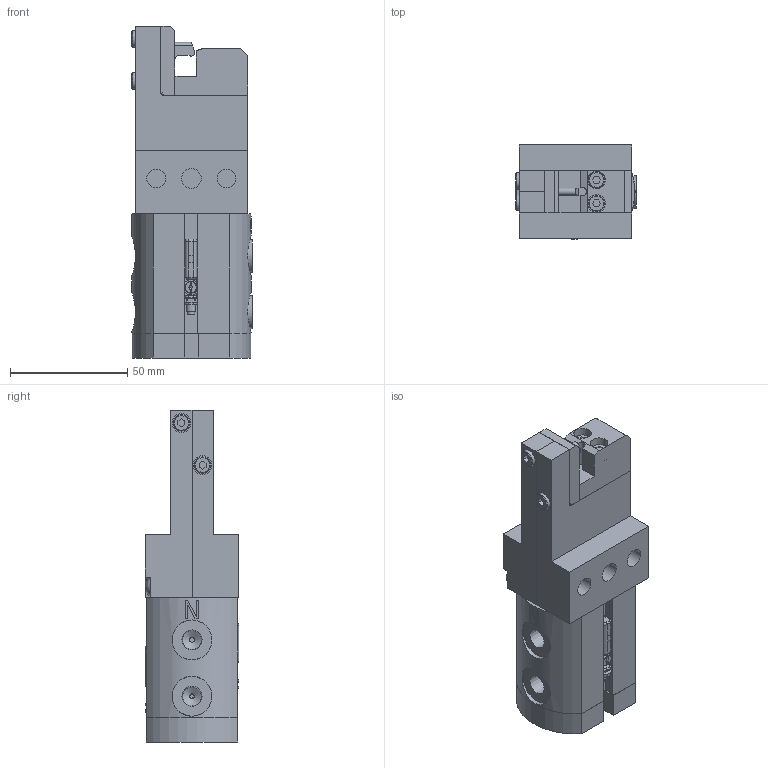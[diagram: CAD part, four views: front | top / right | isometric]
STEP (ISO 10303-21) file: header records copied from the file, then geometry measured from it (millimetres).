
FILE_DESCRIPTION(/* description */ ('WIRE CLAMP'),/* implementation_level */ '2;1');
FILE_NAME(/* name */ 'C:\Vault Workspace\CAD\Welker\Wire Clamps\Standard\Step Files\TCA090NL3X0.stp',/* time_stamp */ '2021-12-13T09:41:50-05:00',/* author */ ('JPX'),/* organization */ (''),/* preprocessor_version */ 'ST-DEVELOPER v18.1',/* originating_system */ 'Autodesk Inventor 2020',/* authorisation */ '');
FILE_SCHEMA (('AUTOMOTIVE_DESIGN { 1 0 10303 214 3 1 1 }'));
Products named in the file (17): TCAL01; TCAE09; TCAE08; BIM-UNT-Sensor; G1/8; NL5; M5X0.8-65 SHCS; TCAE01; TCAE02; TCAE03-0900; TCAE04; TCAE05; M4X0.7-12 SHCS; M4X0.7-20 SHCS; M4X0.7-25 BHCS; 4mmX12 ; 6mmX12 
Assembly tree (28 placements, depth 2):
  TCAL01
    TCAE09
    TCAE08
    BIM-UNT-Sensor  x2
    G1/8  x2
    NL5  x4
    M5X0.8-65 SHCS  x4
    TCAE01
    TCAE02
    TCAE03-0900
    TCAE04
    TCAE05
    M4X0.7-12 SHCS  x2
    M4X0.7-20 SHCS  x2
    M4X0.7-25 BHCS  x2
    4mmX12   x2
    6mmX12 
Bounding box: 51.5 x 40 x 141.5 mm (x, y, z)
Volume: 162706.5 mm3; surface area: 71563.7 mm2
Topology: 30 solids, 30 shells, 698 faces, 1774 edges, 1199 vertices
Faces by surface type: plane 417, cylinder 173, cone 55, bspline 42, torus 11
Full cylindrical faces by diameter (mm): 1.9 x2, 2 x4, 2.6 x2, 3.2 x2, 3.242 x6, 4 x14, 4.134 x4, 4.5 x6, 5 x6, 5.4 x4, 5.5 x8, 6 x4, 7 x4, 7.5 x2, 7.6 x2, 7.914 x2, 8 x6, 8.376 x2, 8.5 x4, 9 x4, 10 x7, 12 x1, 13.6 x1, 14 x2, 17 x4, 21.4 x1, 25 x2, 25.05 x1
Entity records: 25415 total; most frequent: CARTESIAN_POINT 12193, DIRECTION 2633, ORIENTED_EDGE 2554, EDGE_CURVE 1277, AXIS2_PLACEMENT_3D 939, VERTEX_POINT 882, LINE 755, VECTOR 755
